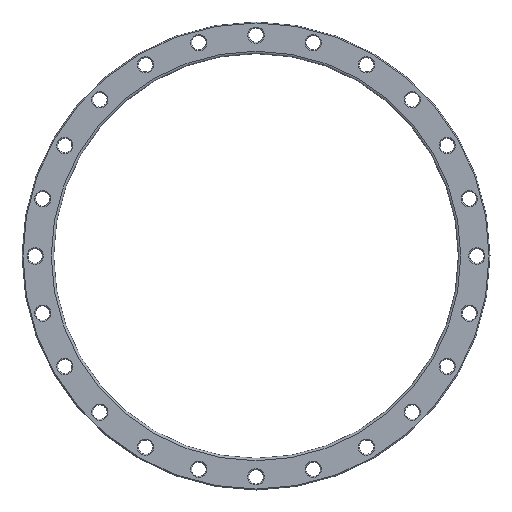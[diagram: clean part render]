
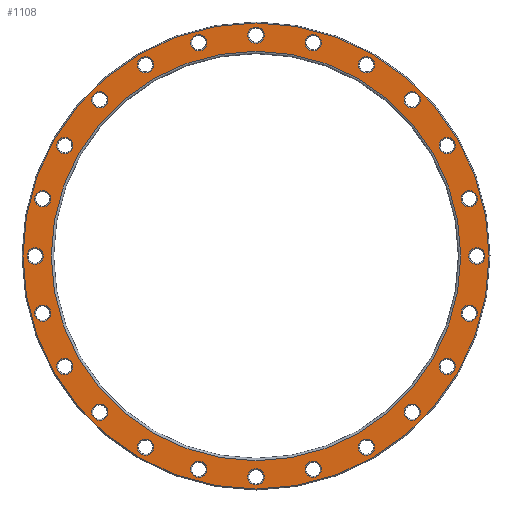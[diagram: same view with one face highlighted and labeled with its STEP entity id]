
A CAD part, front view. The second image highlights one B-rep face of the part: STEP entity #1108.
In plain terms, the highlighted planar face has unit normal (0, -1, 0).
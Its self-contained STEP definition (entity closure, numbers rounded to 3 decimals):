
#23=PLANE('',#1300);
#242=ORIENTED_EDGE('',*,*,#381,.T.);
#243=ORIENTED_EDGE('',*,*,#382,.T.);
#244=ORIENTED_EDGE('',*,*,#284,.T.);
#245=ORIENTED_EDGE('',*,*,#288,.T.);
#246=ORIENTED_EDGE('',*,*,#292,.T.);
#247=ORIENTED_EDGE('',*,*,#296,.T.);
#248=ORIENTED_EDGE('',*,*,#300,.T.);
#249=ORIENTED_EDGE('',*,*,#304,.T.);
#250=ORIENTED_EDGE('',*,*,#308,.T.);
#251=ORIENTED_EDGE('',*,*,#312,.T.);
#252=ORIENTED_EDGE('',*,*,#316,.T.);
#253=ORIENTED_EDGE('',*,*,#320,.T.);
#254=ORIENTED_EDGE('',*,*,#324,.T.);
#255=ORIENTED_EDGE('',*,*,#328,.T.);
#256=ORIENTED_EDGE('',*,*,#332,.T.);
#257=ORIENTED_EDGE('',*,*,#336,.T.);
#258=ORIENTED_EDGE('',*,*,#340,.T.);
#259=ORIENTED_EDGE('',*,*,#344,.T.);
#260=ORIENTED_EDGE('',*,*,#348,.T.);
#261=ORIENTED_EDGE('',*,*,#352,.T.);
#262=ORIENTED_EDGE('',*,*,#356,.T.);
#263=ORIENTED_EDGE('',*,*,#360,.T.);
#264=ORIENTED_EDGE('',*,*,#364,.T.);
#265=ORIENTED_EDGE('',*,*,#368,.T.);
#266=ORIENTED_EDGE('',*,*,#372,.T.);
#267=ORIENTED_EDGE('',*,*,#383,.T.);
#284=EDGE_CURVE('',#388,#388,#492,.T.);
#288=EDGE_CURVE('',#392,#392,#496,.T.);
#292=EDGE_CURVE('',#396,#396,#500,.T.);
#296=EDGE_CURVE('',#400,#400,#504,.T.);
#300=EDGE_CURVE('',#404,#404,#508,.T.);
#304=EDGE_CURVE('',#408,#408,#512,.T.);
#308=EDGE_CURVE('',#412,#412,#516,.T.);
#312=EDGE_CURVE('',#416,#416,#520,.T.);
#316=EDGE_CURVE('',#420,#420,#524,.T.);
#320=EDGE_CURVE('',#424,#424,#528,.T.);
#324=EDGE_CURVE('',#428,#428,#532,.T.);
#328=EDGE_CURVE('',#432,#432,#536,.T.);
#332=EDGE_CURVE('',#436,#436,#540,.T.);
#336=EDGE_CURVE('',#440,#440,#544,.T.);
#340=EDGE_CURVE('',#444,#444,#548,.T.);
#344=EDGE_CURVE('',#448,#448,#552,.T.);
#348=EDGE_CURVE('',#452,#452,#556,.T.);
#352=EDGE_CURVE('',#456,#456,#560,.T.);
#356=EDGE_CURVE('',#460,#460,#564,.T.);
#360=EDGE_CURVE('',#464,#464,#568,.T.);
#364=EDGE_CURVE('',#468,#468,#572,.T.);
#368=EDGE_CURVE('',#472,#472,#576,.T.);
#372=EDGE_CURVE('',#476,#476,#580,.T.);
#381=EDGE_CURVE('',#485,#485,#589,.F.);
#382=EDGE_CURVE('',#486,#486,#590,.T.);
#383=EDGE_CURVE('',#487,#487,#591,.T.);
#388=VERTEX_POINT('',#1691);
#392=VERTEX_POINT('',#1702);
#396=VERTEX_POINT('',#1713);
#400=VERTEX_POINT('',#1724);
#404=VERTEX_POINT('',#1735);
#408=VERTEX_POINT('',#1746);
#412=VERTEX_POINT('',#1757);
#416=VERTEX_POINT('',#1768);
#420=VERTEX_POINT('',#1779);
#424=VERTEX_POINT('',#1790);
#428=VERTEX_POINT('',#1801);
#432=VERTEX_POINT('',#1812);
#436=VERTEX_POINT('',#1823);
#440=VERTEX_POINT('',#1834);
#444=VERTEX_POINT('',#1845);
#448=VERTEX_POINT('',#1856);
#452=VERTEX_POINT('',#1867);
#456=VERTEX_POINT('',#1878);
#460=VERTEX_POINT('',#1889);
#464=VERTEX_POINT('',#1900);
#468=VERTEX_POINT('',#1911);
#472=VERTEX_POINT('',#1922);
#476=VERTEX_POINT('',#1933);
#485=VERTEX_POINT('',#1956);
#486=VERTEX_POINT('',#1958);
#487=VERTEX_POINT('',#1960);
#492=CIRCLE('',#1133,17.);
#496=CIRCLE('',#1140,17.);
#500=CIRCLE('',#1147,17.);
#504=CIRCLE('',#1154,17.);
#508=CIRCLE('',#1161,17.);
#512=CIRCLE('',#1168,17.);
#516=CIRCLE('',#1175,17.);
#520=CIRCLE('',#1182,17.);
#524=CIRCLE('',#1189,17.);
#528=CIRCLE('',#1196,17.);
#532=CIRCLE('',#1203,17.);
#536=CIRCLE('',#1210,17.);
#540=CIRCLE('',#1217,17.);
#544=CIRCLE('',#1224,17.);
#548=CIRCLE('',#1231,17.);
#552=CIRCLE('',#1238,17.);
#556=CIRCLE('',#1245,17.);
#560=CIRCLE('',#1252,17.);
#564=CIRCLE('',#1259,17.);
#568=CIRCLE('',#1266,17.);
#572=CIRCLE('',#1273,17.);
#576=CIRCLE('',#1280,17.);
#580=CIRCLE('',#1287,17.);
#589=CIRCLE('',#1301,485.5);
#590=CIRCLE('',#1302,426.5);
#591=CIRCLE('',#1303,17.);
#762=EDGE_LOOP('',(#242));
#763=EDGE_LOOP('',(#243));
#764=EDGE_LOOP('',(#244));
#765=EDGE_LOOP('',(#245));
#766=EDGE_LOOP('',(#246));
#767=EDGE_LOOP('',(#247));
#768=EDGE_LOOP('',(#248));
#769=EDGE_LOOP('',(#249));
#770=EDGE_LOOP('',(#250));
#771=EDGE_LOOP('',(#251));
#772=EDGE_LOOP('',(#252));
#773=EDGE_LOOP('',(#253));
#774=EDGE_LOOP('',(#254));
#775=EDGE_LOOP('',(#255));
#776=EDGE_LOOP('',(#256));
#777=EDGE_LOOP('',(#257));
#778=EDGE_LOOP('',(#258));
#779=EDGE_LOOP('',(#259));
#780=EDGE_LOOP('',(#260));
#781=EDGE_LOOP('',(#261));
#782=EDGE_LOOP('',(#262));
#783=EDGE_LOOP('',(#263));
#784=EDGE_LOOP('',(#264));
#785=EDGE_LOOP('',(#265));
#786=EDGE_LOOP('',(#266));
#787=EDGE_LOOP('',(#267));
#970=FACE_BOUND('',#762,.T.);
#971=FACE_BOUND('',#763,.T.);
#972=FACE_BOUND('',#764,.T.);
#973=FACE_BOUND('',#765,.T.);
#974=FACE_BOUND('',#766,.T.);
#975=FACE_BOUND('',#767,.T.);
#976=FACE_BOUND('',#768,.T.);
#977=FACE_BOUND('',#769,.T.);
#978=FACE_BOUND('',#770,.T.);
#979=FACE_BOUND('',#771,.T.);
#980=FACE_BOUND('',#772,.T.);
#981=FACE_BOUND('',#773,.T.);
#982=FACE_BOUND('',#774,.T.);
#983=FACE_BOUND('',#775,.T.);
#984=FACE_BOUND('',#776,.T.);
#985=FACE_BOUND('',#777,.T.);
#986=FACE_BOUND('',#778,.T.);
#987=FACE_BOUND('',#779,.T.);
#988=FACE_BOUND('',#780,.T.);
#989=FACE_BOUND('',#781,.T.);
#990=FACE_BOUND('',#782,.T.);
#991=FACE_BOUND('',#783,.T.);
#992=FACE_BOUND('',#784,.T.);
#993=FACE_BOUND('',#785,.T.);
#994=FACE_BOUND('',#786,.T.);
#995=FACE_BOUND('',#787,.T.);
#1108=ADVANCED_FACE('',(#970,#971,#972,#973,#974,#975,#976,#977,#978,#979,
#980,#981,#982,#983,#984,#985,#986,#987,#988,#989,#990,#991,#992,#993,#994,
#995),#23,.F.);
#1133=AXIS2_PLACEMENT_3D('',#1690,#1323,#1324);
#1140=AXIS2_PLACEMENT_3D('',#1701,#1337,#1338);
#1147=AXIS2_PLACEMENT_3D('',#1712,#1351,#1352);
#1154=AXIS2_PLACEMENT_3D('',#1723,#1365,#1366);
#1161=AXIS2_PLACEMENT_3D('',#1734,#1379,#1380);
#1168=AXIS2_PLACEMENT_3D('',#1745,#1393,#1394);
#1175=AXIS2_PLACEMENT_3D('',#1756,#1407,#1408);
#1182=AXIS2_PLACEMENT_3D('',#1767,#1421,#1422);
#1189=AXIS2_PLACEMENT_3D('',#1778,#1435,#1436);
#1196=AXIS2_PLACEMENT_3D('',#1789,#1449,#1450);
#1203=AXIS2_PLACEMENT_3D('',#1800,#1463,#1464);
#1210=AXIS2_PLACEMENT_3D('',#1811,#1477,#1478);
#1217=AXIS2_PLACEMENT_3D('',#1822,#1491,#1492);
#1224=AXIS2_PLACEMENT_3D('',#1833,#1505,#1506);
#1231=AXIS2_PLACEMENT_3D('',#1844,#1519,#1520);
#1238=AXIS2_PLACEMENT_3D('',#1855,#1533,#1534);
#1245=AXIS2_PLACEMENT_3D('',#1866,#1547,#1548);
#1252=AXIS2_PLACEMENT_3D('',#1877,#1561,#1562);
#1259=AXIS2_PLACEMENT_3D('',#1888,#1575,#1576);
#1266=AXIS2_PLACEMENT_3D('',#1899,#1589,#1590);
#1273=AXIS2_PLACEMENT_3D('',#1910,#1603,#1604);
#1280=AXIS2_PLACEMENT_3D('',#1921,#1617,#1618);
#1287=AXIS2_PLACEMENT_3D('',#1932,#1631,#1632);
#1300=AXIS2_PLACEMENT_3D('',#1954,#1657,#1658);
#1301=AXIS2_PLACEMENT_3D('',#1955,#1659,#1660);
#1302=AXIS2_PLACEMENT_3D('',#1957,#1661,#1662);
#1303=AXIS2_PLACEMENT_3D('',#1959,#1663,#1664);
#1323=DIRECTION('',(0.,1.,0.));
#1324=DIRECTION('',(0.966,0.,0.259));
#1337=DIRECTION('',(0.,1.,0.));
#1338=DIRECTION('',(0.866,0.,0.5));
#1351=DIRECTION('',(0.,1.,0.));
#1352=DIRECTION('',(0.707,0.,0.707));
#1365=DIRECTION('',(0.,1.,0.));
#1366=DIRECTION('',(0.5,0.,0.866));
#1379=DIRECTION('',(0.,1.,0.));
#1380=DIRECTION('',(0.259,0.,0.966));
#1393=DIRECTION('',(0.,1.,0.));
#1394=DIRECTION('',(0.,0.,1.));
#1407=DIRECTION('',(0.,1.,0.));
#1408=DIRECTION('',(-0.259,0.,0.966));
#1421=DIRECTION('',(0.,1.,0.));
#1422=DIRECTION('',(-0.5,0.,0.866));
#1435=DIRECTION('',(0.,1.,0.));
#1436=DIRECTION('',(-0.707,0.,0.707));
#1449=DIRECTION('',(0.,1.,0.));
#1450=DIRECTION('',(-0.866,0.,0.5));
#1463=DIRECTION('',(0.,1.,0.));
#1464=DIRECTION('',(-0.966,0.,0.259));
#1477=DIRECTION('',(0.,1.,0.));
#1478=DIRECTION('',(-1.,0.,0.));
#1491=DIRECTION('',(0.,1.,0.));
#1492=DIRECTION('',(-0.966,0.,-0.259));
#1505=DIRECTION('',(0.,1.,0.));
#1506=DIRECTION('',(-0.866,0.,-0.5));
#1519=DIRECTION('',(0.,1.,0.));
#1520=DIRECTION('',(-0.707,0.,-0.707));
#1533=DIRECTION('',(0.,1.,0.));
#1534=DIRECTION('',(-0.5,0.,-0.866));
#1547=DIRECTION('',(0.,1.,0.));
#1548=DIRECTION('',(-0.259,0.,-0.966));
#1561=DIRECTION('',(0.,1.,0.));
#1562=DIRECTION('',(0.,0.,-1.));
#1575=DIRECTION('',(0.,1.,0.));
#1576=DIRECTION('',(0.259,0.,-0.966));
#1589=DIRECTION('',(0.,1.,0.));
#1590=DIRECTION('',(0.5,0.,-0.866));
#1603=DIRECTION('',(0.,1.,0.));
#1604=DIRECTION('',(0.707,0.,-0.707));
#1617=DIRECTION('',(0.,1.,0.));
#1618=DIRECTION('',(0.866,0.,-0.5));
#1631=DIRECTION('',(0.,1.,0.));
#1632=DIRECTION('',(0.966,0.,-0.259));
#1657=DIRECTION('',(0.,1.,0.));
#1658=DIRECTION('',(0.,0.,1.));
#1659=DIRECTION('',(0.,1.,0.));
#1660=DIRECTION('',(0.,0.,1.));
#1661=DIRECTION('',(0.,1.,0.));
#1662=DIRECTION('',(0.,0.,1.));
#1663=DIRECTION('',(0.,1.,0.));
#1664=DIRECTION('',(1.,0.,0.));
#1690=CARTESIAN_POINT('',(-119.057,0.,444.326));
#1691=CARTESIAN_POINT('',(-102.636,0.,448.726));
#1701=CARTESIAN_POINT('',(-230.,0.,398.372));
#1702=CARTESIAN_POINT('',(-215.278,0.,406.872));
#1712=CARTESIAN_POINT('',(-325.269,0.,325.269));
#1713=CARTESIAN_POINT('',(-313.248,0.,337.29));
#1723=CARTESIAN_POINT('',(-398.372,0.,230.));
#1724=CARTESIAN_POINT('',(-389.872,0.,244.722));
#1734=CARTESIAN_POINT('',(-444.326,0.,119.057));
#1735=CARTESIAN_POINT('',(-439.926,0.,135.477));
#1745=CARTESIAN_POINT('',(-460.,0.,0.));
#1746=CARTESIAN_POINT('',(-460.,0.,17.));
#1756=CARTESIAN_POINT('',(-444.326,0.,-119.057));
#1757=CARTESIAN_POINT('',(-448.726,0.,-102.636));
#1767=CARTESIAN_POINT('',(-398.372,0.,-230.));
#1768=CARTESIAN_POINT('',(-406.872,0.,-215.278));
#1778=CARTESIAN_POINT('',(-325.269,0.,-325.269));
#1779=CARTESIAN_POINT('',(-337.29,0.,-313.248));
#1789=CARTESIAN_POINT('',(-230.,0.,-398.372));
#1790=CARTESIAN_POINT('',(-244.722,0.,-389.872));
#1800=CARTESIAN_POINT('',(-119.057,0.,-444.326));
#1801=CARTESIAN_POINT('',(-135.477,0.,-439.926));
#1811=CARTESIAN_POINT('',(0.,0.,-460.));
#1812=CARTESIAN_POINT('',(-17.,0.,-460.));
#1822=CARTESIAN_POINT('',(119.057,0.,-444.326));
#1823=CARTESIAN_POINT('',(102.636,0.,-448.726));
#1833=CARTESIAN_POINT('',(230.,0.,-398.372));
#1834=CARTESIAN_POINT('',(215.278,0.,-406.872));
#1844=CARTESIAN_POINT('',(325.269,0.,-325.269));
#1845=CARTESIAN_POINT('',(313.248,0.,-337.29));
#1855=CARTESIAN_POINT('',(398.372,0.,-230.));
#1856=CARTESIAN_POINT('',(389.872,0.,-244.722));
#1866=CARTESIAN_POINT('',(444.326,0.,-119.057));
#1867=CARTESIAN_POINT('',(439.926,0.,-135.477));
#1877=CARTESIAN_POINT('',(460.,0.,0.));
#1878=CARTESIAN_POINT('',(460.,0.,-17.));
#1888=CARTESIAN_POINT('',(444.326,0.,119.057));
#1889=CARTESIAN_POINT('',(448.726,0.,102.636));
#1899=CARTESIAN_POINT('',(398.372,0.,230.));
#1900=CARTESIAN_POINT('',(406.872,0.,215.278));
#1910=CARTESIAN_POINT('',(325.269,0.,325.269));
#1911=CARTESIAN_POINT('',(337.29,0.,313.248));
#1921=CARTESIAN_POINT('',(230.,0.,398.372));
#1922=CARTESIAN_POINT('',(244.722,0.,389.872));
#1932=CARTESIAN_POINT('',(119.057,0.,444.326));
#1933=CARTESIAN_POINT('',(135.477,0.,439.926));
#1954=CARTESIAN_POINT('',(0.,0.,0.));
#1955=CARTESIAN_POINT('',(0.,0.,0.));
#1956=CARTESIAN_POINT('',(0.,0.,485.5));
#1957=CARTESIAN_POINT('',(0.,0.,0.));
#1958=CARTESIAN_POINT('',(0.,0.,426.5));
#1959=CARTESIAN_POINT('',(0.,0.,460.));
#1960=CARTESIAN_POINT('',(17.,0.,460.));
